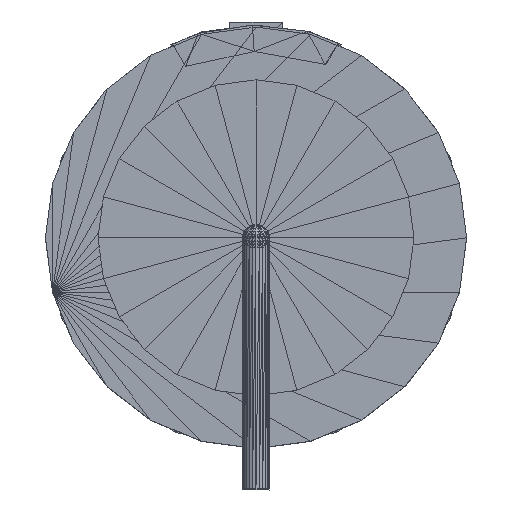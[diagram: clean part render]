
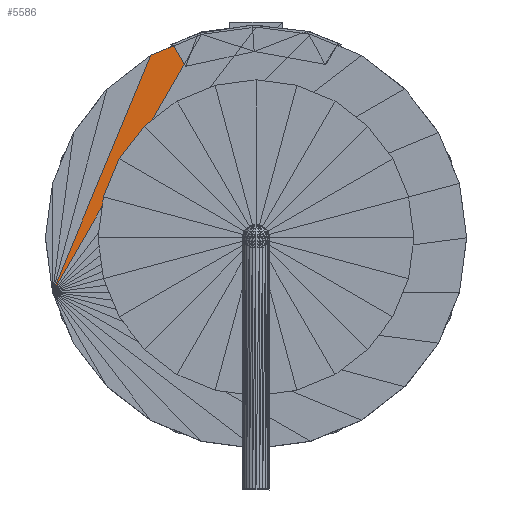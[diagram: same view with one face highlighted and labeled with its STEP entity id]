
A CAD part, left-side view. The second image highlights one B-rep face of the part: STEP entity #5586.
In plain terms, the highlighted planar face has unit normal (-1, 0, 0).
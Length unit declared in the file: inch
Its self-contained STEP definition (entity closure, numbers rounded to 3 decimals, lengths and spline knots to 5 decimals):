
#5171=CARTESIAN_POINT('',(-1.21066,0.48289,0.37068));
#5172=VERTEX_POINT('',#5171);
#5547=CARTESIAN_POINT('',(-1.21052,0.1292,0.98299));
#5548=VERTEX_POINT('',#5547);
#5555=CARTESIAN_POINT('',(-1.21066,0.48289,0.37068));
#5556=DIRECTION('',(0.,-0.5,0.866));
#5557=VECTOR('',#5556,0.70712);
#5558=LINE('',#5555,#5557);
#5559=EDGE_CURVE('',#5172,#5548,#5558,.T.);
#5564=CARTESIAN_POINT('',(-1.21066,0.48289,0.37068));
#5565=DIRECTION('',(-1.,0.,0.));
#5566=DIRECTION('',(0.,-0.472,0.882));
#5567=AXIS2_PLACEMENT_3D('',#5564,#5565,#5566);
#5568=PLANE('',#5567);
#5569=ORIENTED_EDGE('',*,*,#5559,.T.);
#5570=CARTESIAN_POINT('',(-1.21054,0.24981,0.93305));
#5571=VERTEX_POINT('',#5570);
#5572=CARTESIAN_POINT('',(-1.21054,0.24981,0.93305));
#5573=DIRECTION('',(0.,-0.924,0.383));
#5574=VECTOR('',#5573,0.13054);
#5575=LINE('',#5572,#5574);
#5576=EDGE_CURVE('',#5571,#5548,#5575,.T.);
#5577=ORIENTED_EDGE('',*,*,#5576,.F.);
#5578=CARTESIAN_POINT('',(-1.21066,0.48289,0.37068));
#5579=DIRECTION('',(0.,-0.383,0.924));
#5580=VECTOR('',#5579,0.60876);
#5581=LINE('',#5578,#5580);
#5582=EDGE_CURVE('',#5172,#5571,#5581,.T.);
#5583=ORIENTED_EDGE('',*,*,#5582,.F.);
#5584=EDGE_LOOP('',(#5569,#5577,#5583));
#5585=FACE_BOUND('',#5584,.T.);
#5586=ADVANCED_FACE('',(#5585),#5568,.T.);
